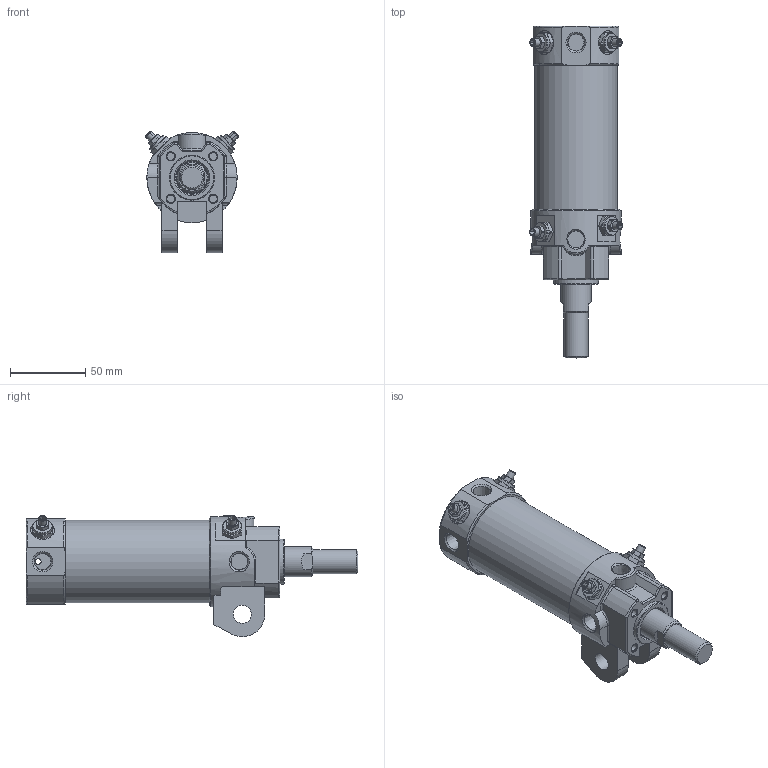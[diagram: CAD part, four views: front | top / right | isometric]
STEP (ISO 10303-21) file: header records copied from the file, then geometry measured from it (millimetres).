
FILE_DESCRIPTION((''),'2;1');
FILE_NAME('I:\3D電子目錄\氣缸\DCK\DCK\DCK-1B-50x50.stp','2008-02-26T14:17:17',('Administrator'),(''),'Autodesk Inventor 11','Autodesk Inventor 11','');
FILE_SCHEMA(('AUTOMOTIVE_DESIGN { 1 0 10303 214 1 1 1 1 }'));
Length unit declared in the file: millimetre
Products named in the file (6): DCK-1B-50; 緩衝針; 緩衝針-1; 緩衝針-201; 緩衝針-3
Assembly tree (8 placements, depth 3):
  DCK-1B-50
    DCK-1B-50
    緩衝針  x4
      緩衝針-1
      緩衝針-201
      緩衝針-3
Bounding box: 61.76 x 221 x 80.87 mm (x, y, z)
Volume: 229423 mm3; surface area: 93329.2 mm2
Topology: 15 solids, 15 shells, 570 faces, 1270 edges, 794 vertices
Faces by surface type: plane 213, cylinder 168, cone 133, torus 30, bspline 26
Full cylindrical faces by diameter (mm): 2 x2, 3 x4, 3.8 x2, 4 x6, 4.6 x4, 5 x8, 5.1 x4, 5.2 x12, 5.5 x4, 7.25 x1, 7.9 x4, 8 x2, 10.3 x1, 11.3 x1, 12 x4, 12.8 x4, 16 x2, 20 x1, 21 x1, 22 x2, 23 x1, 24.7 x1, 26 x1, 27 x1, 28 x1, 29 x1, 30 x1, 33 x1, 49.5 x1, 52 x2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
Entity records: 11478 total; most frequent: CARTESIAN_POINT 4706, DIRECTION 1374, ORIENTED_EDGE 1222, EDGE_CURVE 611, AXIS2_PLACEMENT_3D 598, EDGE_LOOP 497, VERTEX_POINT 444, FACE_OUTER_BOUND 321
